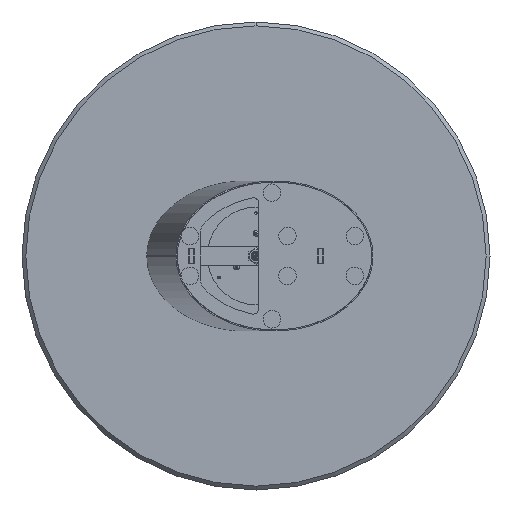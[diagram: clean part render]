
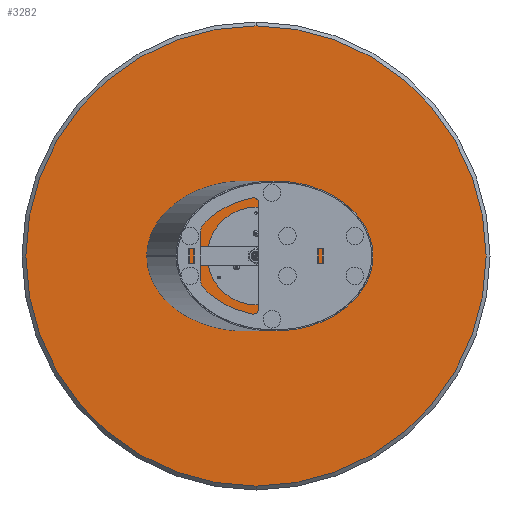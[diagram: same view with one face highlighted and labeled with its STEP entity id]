
A CAD part, front view. The second image highlights one B-rep face of the part: STEP entity #3282.
In plain terms, the highlighted planar face has unit normal (0, -1, 0).
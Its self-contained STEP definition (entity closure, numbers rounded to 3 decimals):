
#120 = CIRCLE ( 'NONE', #12387, 3.4 ) ;
#225 = FACE_BOUND ( 'NONE', #4822, .T. ) ;
#574 = AXIS2_PLACEMENT_3D ( 'NONE', #10240, #10307, #13624 ) ;
#717 = CARTESIAN_POINT ( 'NONE',  ( -95., 0., -54.848 ) ) ;
#854 = VERTEX_POINT ( 'NONE', #10891 ) ;
#971 = DIRECTION ( 'NONE',  ( 0., -1., 0. ) ) ;
#1267 = EDGE_CURVE ( 'NONE', #854, #9321, #5677, .T. ) ;
#1431 = ORIENTED_EDGE ( 'NONE', *, *, #10650, .T. ) ;
#1708 = CARTESIAN_POINT ( 'NONE',  ( -95., 0., -58.248 ) ) ;
#1722 = CIRCLE ( 'NONE', #5917, 3.4 ) ;
#1778 = EDGE_LOOP ( 'NONE', ( #7235, #6754 ) ) ;
#1812 = VERTEX_POINT ( 'NONE', #4560 ) ;
#1895 = EDGE_CURVE ( 'NONE', #10906, #9930, #4738, .T. ) ;
#2161 = DIRECTION ( 'NONE',  ( 0., -1., 0. ) ) ;
#2367 = EDGE_CURVE ( 'NONE', #9930, #10906, #1722, .T. ) ;
#2613 = CARTESIAN_POINT ( 'NONE',  ( 0., 0., 590. ) ) ;
#2789 = CARTESIAN_POINT ( 'NONE',  ( 0., 0., 109.697 ) ) ;
#3105 = DIRECTION ( 'NONE',  ( 0., -1., 0. ) ) ;
#3282 = ADVANCED_FACE ( 'NONE', ( #5772, #11332, #10172, #225, #4668 ), #9079, .T. ) ;
#3400 = VERTEX_POINT ( 'NONE', #2613 ) ;
#3446 = CARTESIAN_POINT ( 'NONE',  ( 0., 0., 113.097 ) ) ;
#3868 = CARTESIAN_POINT ( 'NONE',  ( 0., 0., 106.297 ) ) ;
#4046 = AXIS2_PLACEMENT_3D ( 'NONE', #8664, #4524, #10914 ) ;
#4094 = DIRECTION ( 'NONE',  ( 0., 0., -1. ) ) ;
#4246 = DIRECTION ( 'NONE',  ( 0., 0., -1. ) ) ;
#4439 = VERTEX_POINT ( 'NONE', #8014 ) ;
#4524 = DIRECTION ( 'NONE',  ( 0., -1., 0. ) ) ;
#4560 = CARTESIAN_POINT ( 'NONE',  ( 0., 0., -590. ) ) ;
#4668 = FACE_OUTER_BOUND ( 'NONE', #6132, .T. ) ;
#4738 = CIRCLE ( 'NONE', #11207, 3.4 ) ;
#4799 = CIRCLE ( 'NONE', #10347, 3.4 ) ;
#4822 = EDGE_LOOP ( 'NONE', ( #13938, #8715 ) ) ;
#4829 = CIRCLE ( 'NONE', #8056, 3.4 ) ;
#4850 = CARTESIAN_POINT ( 'NONE',  ( 0., 0., 3.4 ) ) ;
#5266 = CARTESIAN_POINT ( 'NONE',  ( 0., 0., 0. ) ) ;
#5304 = DIRECTION ( 'NONE',  ( 0., 0., -1. ) ) ;
#5364 = CARTESIAN_POINT ( 'NONE',  ( 95., 0., -54.848 ) ) ;
#5523 = DIRECTION ( 'NONE',  ( 0., 0., -1. ) ) ;
#5677 = CIRCLE ( 'NONE', #13733, 3.4 ) ;
#5682 = CIRCLE ( 'NONE', #13282, 3.4 ) ;
#5772 = FACE_BOUND ( 'NONE', #13199, .T. ) ;
#5917 = AXIS2_PLACEMENT_3D ( 'NONE', #13620, #10523, #9431 ) ;
#6132 = EDGE_LOOP ( 'NONE', ( #1431, #10578 ) ) ;
#6167 = CIRCLE ( 'NONE', #8702, 3.4 ) ;
#6310 = EDGE_CURVE ( 'NONE', #4439, #7301, #4799, .T. ) ;
#6354 = DIRECTION ( 'NONE',  ( 0., -1., 0. ) ) ;
#6388 = DIRECTION ( 'NONE',  ( 0., -1., 0. ) ) ;
#6399 = CARTESIAN_POINT ( 'NONE',  ( -95., 0., -54.848 ) ) ;
#6436 = EDGE_CURVE ( 'NONE', #13518, #10510, #6167, .T. ) ;
#6596 = DIRECTION ( 'NONE',  ( 0., -1., 0. ) ) ;
#6649 = ORIENTED_EDGE ( 'NONE', *, *, #10235, .F. ) ;
#6754 = ORIENTED_EDGE ( 'NONE', *, *, #6436, .F. ) ;
#6928 = ORIENTED_EDGE ( 'NONE', *, *, #2367, .F. ) ;
#6956 = EDGE_CURVE ( 'NONE', #7301, #4439, #120, .T. ) ;
#7162 = ORIENTED_EDGE ( 'NONE', *, *, #1895, .F. ) ;
#7235 = ORIENTED_EDGE ( 'NONE', *, *, #12007, .F. ) ;
#7301 = VERTEX_POINT ( 'NONE', #4850 ) ;
#8014 = CARTESIAN_POINT ( 'NONE',  ( 0., 0., -3.4 ) ) ;
#8056 = AXIS2_PLACEMENT_3D ( 'NONE', #6399, #2161, #10812 ) ;
#8126 = CARTESIAN_POINT ( 'NONE',  ( 95., 0., -51.448 ) ) ;
#8390 = DIRECTION ( 'NONE',  ( 0., -1., 0. ) ) ;
#8664 = CARTESIAN_POINT ( 'NONE',  ( 0., 0., 0. ) ) ;
#8702 = AXIS2_PLACEMENT_3D ( 'NONE', #5364, #6596, #13236 ) ;
#8715 = ORIENTED_EDGE ( 'NONE', *, *, #6956, .F. ) ;
#8901 = CIRCLE ( 'NONE', #4046, 590. ) ;
#9079 = PLANE ( 'NONE',  #574 ) ;
#9321 = VERTEX_POINT ( 'NONE', #1708 ) ;
#9408 = DIRECTION ( 'NONE',  ( 0., 0., -1. ) ) ;
#9431 = DIRECTION ( 'NONE',  ( 0., 0., -1. ) ) ;
#9930 = VERTEX_POINT ( 'NONE', #3868 ) ;
#9944 = EDGE_LOOP ( 'NONE', ( #6928, #7162 ) ) ;
#10172 = FACE_BOUND ( 'NONE', #9944, .T. ) ;
#10235 = EDGE_CURVE ( 'NONE', #9321, #854, #4829, .T. ) ;
#10240 = CARTESIAN_POINT ( 'NONE',  ( 0., 0., 0. ) ) ;
#10307 = DIRECTION ( 'NONE',  ( 0., -1., 0. ) ) ;
#10347 = AXIS2_PLACEMENT_3D ( 'NONE', #12656, #12728, #9408 ) ;
#10379 = CIRCLE ( 'NONE', #13141, 590. ) ;
#10510 = VERTEX_POINT ( 'NONE', #12638 ) ;
#10523 = DIRECTION ( 'NONE',  ( 0., -1., 0. ) ) ;
#10578 = ORIENTED_EDGE ( 'NONE', *, *, #11748, .T. ) ;
#10650 = EDGE_CURVE ( 'NONE', #3400, #1812, #10379, .T. ) ;
#10812 = DIRECTION ( 'NONE',  ( 0., 0., -1. ) ) ;
#10891 = CARTESIAN_POINT ( 'NONE',  ( -95., 0., -51.448 ) ) ;
#10906 = VERTEX_POINT ( 'NONE', #3446 ) ;
#10914 = DIRECTION ( 'NONE',  ( 0., 0., -1. ) ) ;
#11207 = AXIS2_PLACEMENT_3D ( 'NONE', #2789, #8390, #11725 ) ;
#11332 = FACE_BOUND ( 'NONE', #1778, .T. ) ;
#11725 = DIRECTION ( 'NONE',  ( 0., 0., -1. ) ) ;
#11748 = EDGE_CURVE ( 'NONE', #1812, #3400, #8901, .T. ) ;
#12007 = EDGE_CURVE ( 'NONE', #10510, #13518, #5682, .T. ) ;
#12060 = CARTESIAN_POINT ( 'NONE',  ( 0., 0., 0. ) ) ;
#12387 = AXIS2_PLACEMENT_3D ( 'NONE', #5266, #6354, #4094 ) ;
#12638 = CARTESIAN_POINT ( 'NONE',  ( 95., 0., -58.248 ) ) ;
#12656 = CARTESIAN_POINT ( 'NONE',  ( 0., 0., 0. ) ) ;
#12660 = ORIENTED_EDGE ( 'NONE', *, *, #1267, .F. ) ;
#12728 = DIRECTION ( 'NONE',  ( 0., -1., 0. ) ) ;
#13103 = CARTESIAN_POINT ( 'NONE',  ( 95., 0., -54.848 ) ) ;
#13141 = AXIS2_PLACEMENT_3D ( 'NONE', #12060, #971, #4246 ) ;
#13199 = EDGE_LOOP ( 'NONE', ( #6649, #12660 ) ) ;
#13236 = DIRECTION ( 'NONE',  ( 0., 0., -1. ) ) ;
#13282 = AXIS2_PLACEMENT_3D ( 'NONE', #13103, #3105, #5523 ) ;
#13518 = VERTEX_POINT ( 'NONE', #8126 ) ;
#13620 = CARTESIAN_POINT ( 'NONE',  ( 0., 0., 109.697 ) ) ;
#13624 = DIRECTION ( 'NONE',  ( 0., 0., -1. ) ) ;
#13733 = AXIS2_PLACEMENT_3D ( 'NONE', #717, #6388, #5304 ) ;
#13938 = ORIENTED_EDGE ( 'NONE', *, *, #6310, .F. ) ;
